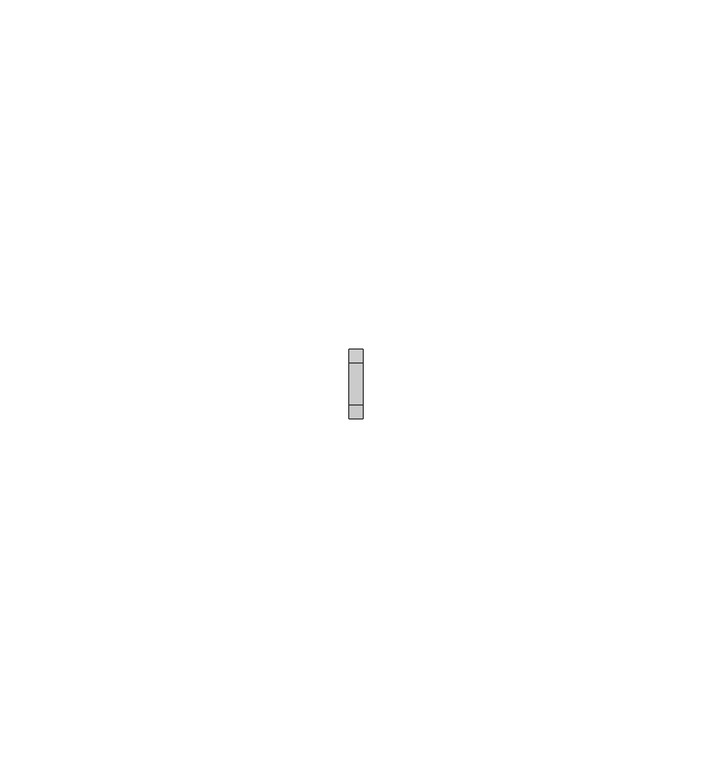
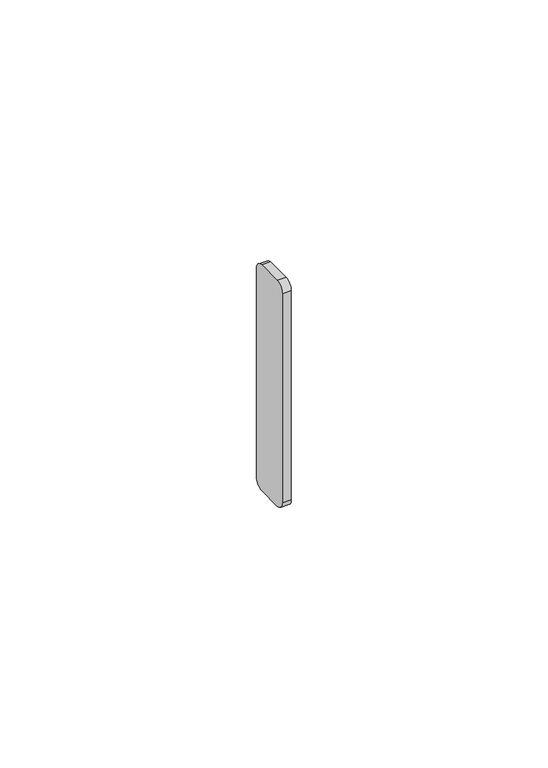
"""IFC4 building model written with IfcOpenShell, lengths in millimetres: proxy geometry, Odbojniki - OPW35 PLUS : Odbojniki - OPW35 PLUS."""

from ifc_helpers import new_model, si_unit, point, frame, frame_2d, origin, place, context, project, spatial, polyline, circle_curve, trimmed, segment, composite_curve, outline, extrude, source, transform, mapped, element, save


def generic_models_4a95ab7a(model_context):
    return source(origin(), model_context, "Body", "SweptSolid", [
        extrude(outline(composite_curve([segment(polyline([(-22.9415089, 35.7729307), (-22.9415089, -13.8806226)]), True, "CONTINUOUS"), segment(trimmed(circle_curve(frame_2d((-24.9415089, -13.8806226)), 2.0), [point((-22.9415089, -13.8806226))], [point((-24.9415089, -15.8806226))], False, "CARTESIAN"), True, "CONTINUOUS"), segment(polyline([(-24.9415089, -15.8806226), (-30.9415089, -15.8806226)]), True, "CONTINUOUS"), segment(trimmed(circle_curve(frame_2d((-30.9415089, -13.8806226)), 2.0), [point((-30.9415089, -15.8806226))], [point((-32.9415089, -13.8806226))], False, "CARTESIAN"), True, "CONTINUOUS"), segment(polyline([(-32.9415089, -13.8806226), (-32.9415089, 35.7729307)]), True, "CONTINUOUS"), segment(trimmed(circle_curve(frame_2d((-30.9415089, 35.7729307)), 2.0), [point((-32.9415089, 35.7729307))], [point((-30.9415089, 37.7729307))], False, "CARTESIAN"), True, "CONTINUOUS"), segment(polyline([(-30.9415089, 37.7729307), (-24.9415089, 37.7729307)]), True, "CONTINUOUS"), segment(trimmed(circle_curve(frame_2d((-24.9415089, 35.7729307)), 2.0), [point((-24.9415089, 37.7729307))], [point((-22.9415089, 35.7729307))], False, "CARTESIAN"), True, "CONTINUOUS")], self_intersect=False)), frame((-3.0, 0.0, 0.0), z_axis=(1.0, 0.0, 0.0), x_axis=(0.0, 1.0, 0.0)), (0.0, 0.0, 1.0), 2.0),
    ])


if __name__ == "__main__":
    model = new_model("IFC4")
    model_context = context("Model", 3, world=origin())
    ifc_project = project(units=[si_unit("LENGTHUNIT", "METRE", prefix="MILLI")], contexts=[model_context])
    site = spatial("IfcSite", under=ifc_project)
    building = spatial("IfcBuilding", under=site)
    placement = place(None, origin())
    generic_models_shape = generic_models_4a95ab7a(model_context)
    element("IfcBuildingElementProxy", 1, Name="Odbojniki - OPW35 PLUS : Odbojniki - OPW35 PLUS", ObjectType="Odbojniki - OPW35 PLUS : Odbojniki - OPW35 PLUS", at=placement, inside=building, context=model_context, shape_type="MappedRepresentation", body=[
        mapped(generic_models_shape, transform((0.0, 0.0, 0.0), x_axis=(1.0, 0.0, 0.0), y_axis=(0.0, 1.0, 0.0), z_axis=(0.0, 0.0, 1.0))),
    ])
    save(model, "model.ifc")
